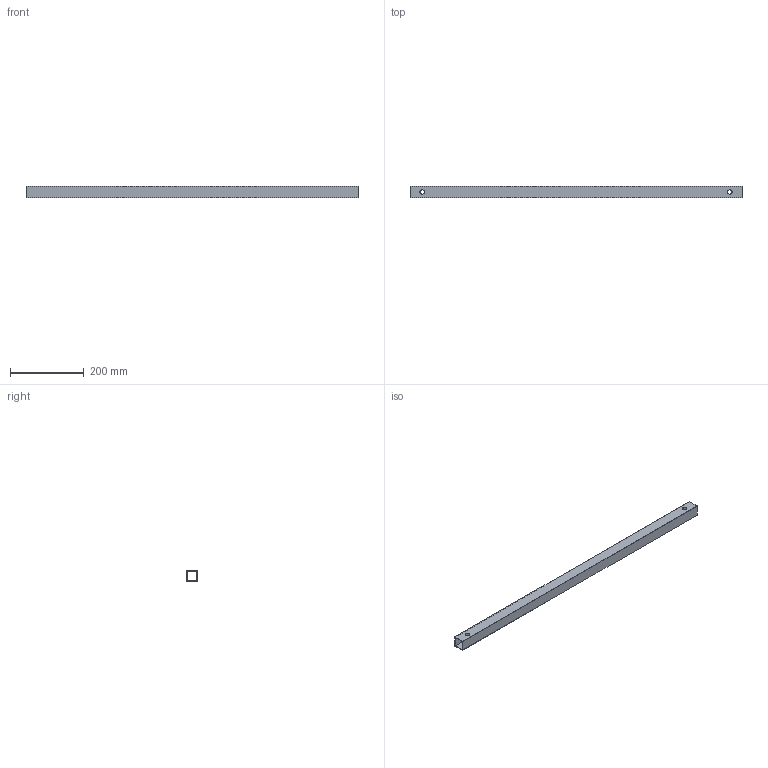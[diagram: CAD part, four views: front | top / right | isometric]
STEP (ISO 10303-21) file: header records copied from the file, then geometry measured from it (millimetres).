
FILE_DESCRIPTION(/* description */ (''),/* implementation_level */ '2;1');
FILE_NAME(/* name */ '2020TOMO-PAV-Barra6_v2.stp',/* time_stamp */ '2022-05-16T13:57:55+02:00',/* author */ (''),/* organization */ (''),/* preprocessor_version */ 'ST-DEVELOPER v18.102',/* originating_system */ 'SIEMENS PLM Software NX 2000',/* authorisation */ '');
FILE_SCHEMA (('AUTOMOTIVE_DESIGN { 1 0 10303 214 3 1 1 1 }'));
Length unit declared in the file: millimetre
Products named in the file (1): turc3144724Fyyh9
Bounding box: 900 x 30 x 30 mm (x, y, z)
Volume: 153221.4 mm3; surface area: 204863.4 mm2
Topology: 1 solids, 1 shells, 14 faces, 38 edges, 26 vertices
Faces by surface type: plane 10, cylinder 4
Full cylindrical faces by diameter (mm): 12 x4
Entity records: 460 total; most frequent: CARTESIAN_POINT 71, DIRECTION 70, ORIENTED_EDGE 64, EDGE_CURVE 32, EDGE_LOOP 28, FACE_BOUND 24, VERTEX_POINT 24, LINE 24
